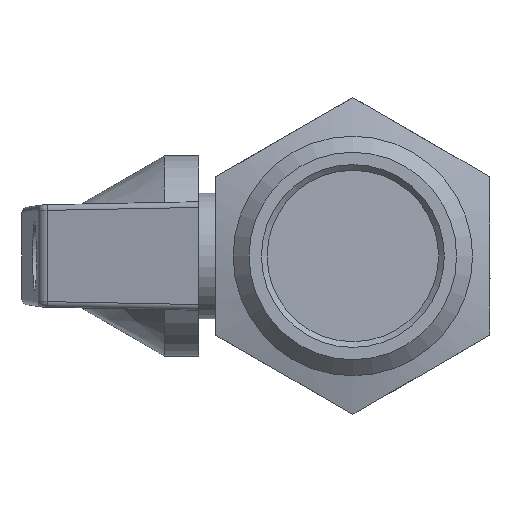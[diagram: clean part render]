
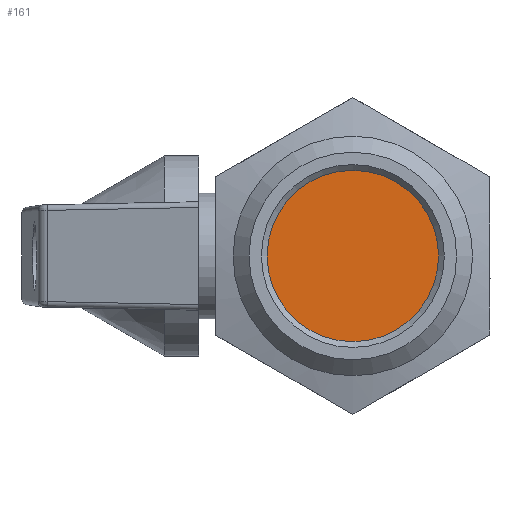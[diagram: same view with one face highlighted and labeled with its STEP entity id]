
A CAD part, left-side view. The second image highlights one B-rep face of the part: STEP entity #161.
In plain terms, the highlighted planar face has unit normal (-1, 0, 0).
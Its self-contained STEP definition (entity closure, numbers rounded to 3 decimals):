
#161=ADVANCED_FACE('',(#1218),#1220,.T.);
#1218=FACE_BOUND('',#1219,.T.);
#1219=EDGE_LOOP('',(#1718));
#1220=PLANE('',#1221);
#1221=AXIS2_PLACEMENT_3D('',#1222,#1223,#1224);
#1222=CARTESIAN_POINT('',(-10.75,0.,0.));
#1223=DIRECTION('',(-1.,0.,0.));
#1224=DIRECTION('',(0.,0.,1.));
#1718=ORIENTED_EDGE('',*,*,#2030,.T.);
#2030=EDGE_CURVE('',#2471,#2471,#2472,.T.);
#2471=VERTEX_POINT('',#4794);
#2472=CIRCLE('',#4795,7.5);
#4794=CARTESIAN_POINT('',(-10.75,0.,7.5));
#4795=AXIS2_PLACEMENT_3D('',#4796,#4797,#4798);
#4796=CARTESIAN_POINT('',(-10.75,0.,0.));
#4797=DIRECTION('',(-1.,0.,0.));
#4798=DIRECTION('',(0.,0.,1.));
